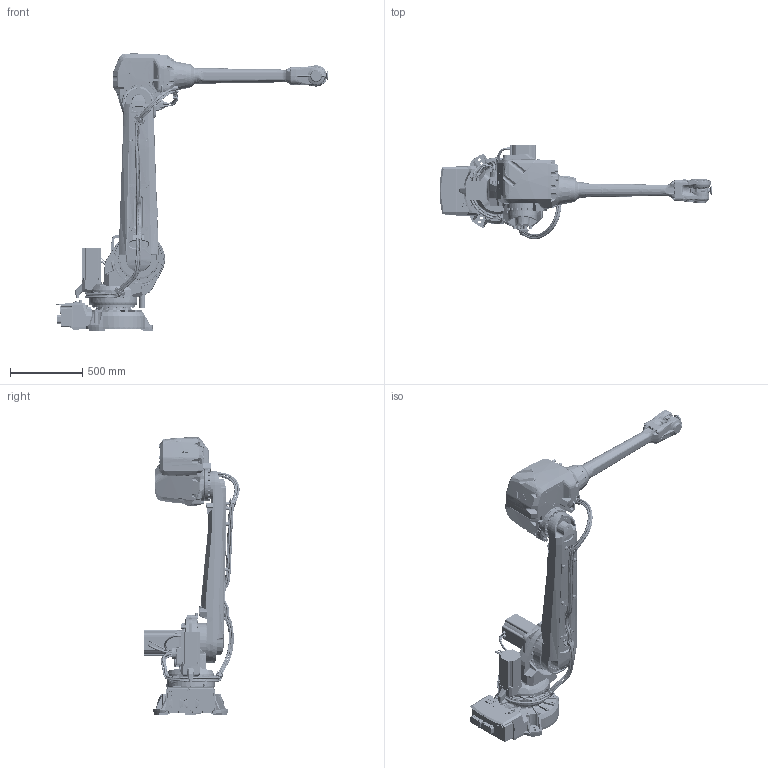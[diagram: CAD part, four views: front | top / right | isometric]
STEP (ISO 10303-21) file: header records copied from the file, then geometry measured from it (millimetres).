
FILE_DESCRIPTION(/* description */ (''),/* implementation_level */ '2;1');
FILE_NAME(/* name */ 'E:\组装完成的图纸\IRB 4600\IRB 4600-20-2.5\IRB 4600-20-2.5.stp',/* time_stamp */ '2023-11-03T21:52:33+08:00',/* author */ ('Administrator'),/* organization */ (''),/* preprocessor_version */ 'ST-DEVELOPER v16.5',/* originating_system */ 'Autodesk Inventor 2017',/* authorisation */ '');
FILE_SCHEMA (('AUTOMOTIVE_DESIGN { 1 0 10303 214 3 1 1 }'));
Products named in the file (11): 部件3; IRB4600_20kg-250_BASE_CAD_rev04; IRB4600_20kg-250_CABLES_LINK1_rev03; IRB4600_20kg-250_CABLES_LINK2_rev03; IRB4600_20kg-250_CABLES_LINK3_rev03; IRB4600_20kg-250_LINK1_CAD_rev04; IRB4600_20kg-250_LINK2_CAD_rev04; IRB4600_20kg-250_LINK3_CAD_rev04; IRB4600_20kg-250_LINK4_CAD_rev04; IRB4600_20kg-250_LINK5_CAD_rev04; IRB4600_20kg-250_LINK6_CAD_rev04
Assembly tree (10 placements, depth 2):
  部件3
    IRB4600_20kg-250_BASE_CAD_rev04
    IRB4600_20kg-250_CABLES_LINK1_rev03
    IRB4600_20kg-250_CABLES_LINK2_rev03
    IRB4600_20kg-250_CABLES_LINK3_rev03
    IRB4600_20kg-250_LINK1_CAD_rev04
    IRB4600_20kg-250_LINK2_CAD_rev04
    IRB4600_20kg-250_LINK3_CAD_rev04
    IRB4600_20kg-250_LINK4_CAD_rev04
    IRB4600_20kg-250_LINK5_CAD_rev04
    IRB4600_20kg-250_LINK6_CAD_rev04
Bounding box: 1891.47 x 659.16 x 1920.77 mm (x, y, z)
Volume: 169558257 mm3; surface area: 5431733.4 mm2
Topology: 11 solids, 20 shells, 4269 faces, 10928 edges, 6944 vertices
Faces by surface type: plane 1838, bspline 995, cylinder 812, cone 463, torus 137, sphere 24
Full cylindrical faces by diameter (mm): 4.2 x2, 5 x8, 5.263 x1, 6 x13, 6.25 x2, 6.8 x17, 6.9 x4, 6.959 x1, 7 x3, 7.1 x5, 7.5 x16, 8 x1, 8.5 x6, 9.5 x1, 10 x1, 10.2 x1, 10.22 x21, 10.5 x2, 10.6 x1, 11 x3, 11.9 x5, 12 x44, 13 x2, 13.3 x20, 15.551 x1, 15.665 x5, 16 x1, 16.27 x16, 16.3 x30, 17 x2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
Entity records: 248813 total; most frequent: CARTESIAN_POINT 153711, ORIENTED_EDGE 20464, DIRECTION 17854, EDGE_CURVE 10232, AXIS2_PLACEMENT_3D 6999, VERTEX_POINT 6798, EDGE_LOOP 5190, FACE_OUTER_BOUND 4269
